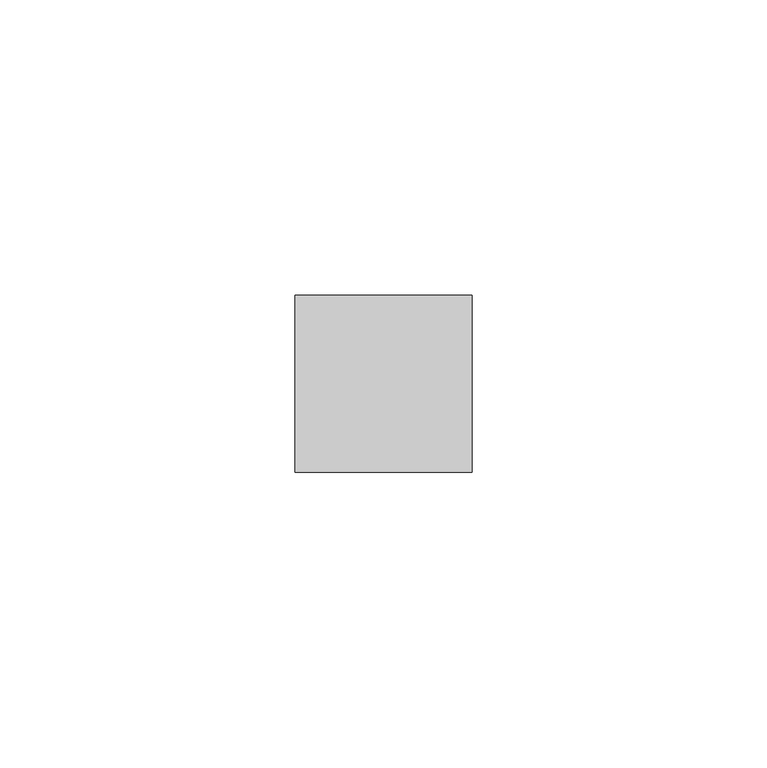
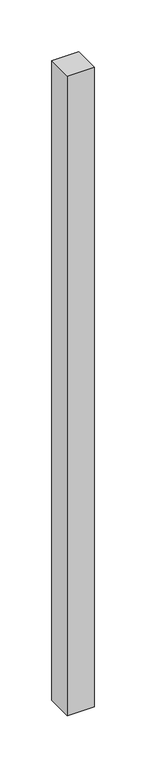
"""IFC4 building model written with IfcOpenShell, lengths in millimetres: member geometry, 矩形竖梃 : 30mm 正方形."""

from ifc_helpers import new_model, si_unit, frame, origin, place, context, project, spatial, polyline, outline, extrude, source, transform, mapped, element, save


def member_90ac73ab(model_context):
    return source(origin(), model_context, "Body", "SweptSolid", [
        extrude(outline(polyline([(0.0, 15.0), (0.0, -15.0), (-30.0, -15.0), (-30.0, 15.0), (0.0, 15.0)])), frame((0.0, 0.0, -755.0), z_axis=(0.0, 0.0, 1.0), x_axis=(1.0, 0.0, 0.0)), (0.0, 0.0, 1.0), 755.0),
    ])


if __name__ == "__main__":
    model = new_model("IFC4")
    model_context = context("Model", 3, world=origin())
    ifc_project = project(units=[si_unit("LENGTHUNIT", "METRE", prefix="MILLI")], contexts=[model_context])
    site = spatial("IfcSite", under=ifc_project)
    building = spatial("IfcBuilding", under=site)
    placement = place(None, origin())
    member_shape = member_90ac73ab(model_context)
    element("IfcMember", 1, ObjectType="矩形竖梃 : 30mm 正方形", at=placement, inside=building, context=model_context, shape_type="MappedRepresentation", body=[
        mapped(member_shape, transform((0.0, 0.0, 0.0), x_axis=(1.0, 0.0, 0.0), y_axis=(0.0, 1.0, 0.0), z_axis=(0.0, 0.0, 1.0))),
    ])
    save(model, "model.ifc")
